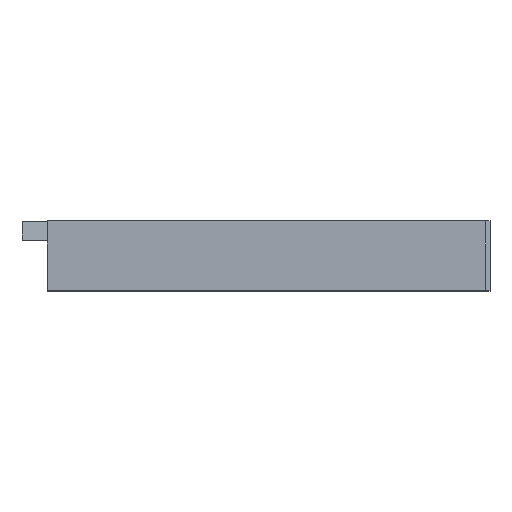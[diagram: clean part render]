
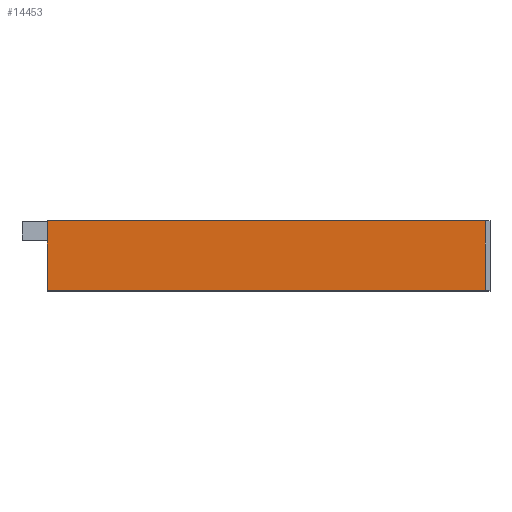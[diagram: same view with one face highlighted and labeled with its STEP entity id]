
A CAD part, top view. The second image highlights one B-rep face of the part: STEP entity #14453.
In plain terms, the highlighted planar face has unit normal (0, 0, 1).
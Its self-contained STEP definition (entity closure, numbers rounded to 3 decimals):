
#22 = VERTEX_POINT('',#23);
#23 = CARTESIAN_POINT('',(0.2,422.05,140.));
#32 = PLANE('',#33);
#33 = AXIS2_PLACEMENT_3D('',#34,#35,#36);
#34 = CARTESIAN_POINT('',(0.2,420.05,0.));
#35 = DIRECTION('',(1.,0.,0.));
#36 = DIRECTION('',(0.,0.,1.));
#44 = PLANE('',#45);
#45 = AXIS2_PLACEMENT_3D('',#46,#47,#48);
#46 = CARTESIAN_POINT('',(0.2,422.05,0.));
#47 = DIRECTION('',(0.,1.,0.));
#48 = DIRECTION('',(0.,0.,1.));
#56 = EDGE_CURVE('',#57,#22,#59,.T.);
#57 = VERTEX_POINT('',#58);
#58 = CARTESIAN_POINT('',(0.2,400.05,140.));
#59 = SURFACE_CURVE('',#60,(#64,#71),.PCURVE_S1.);
#60 = LINE('',#61,#62);
#61 = CARTESIAN_POINT('',(0.2,400.05,140.));
#62 = VECTOR('',#63,1.);
#63 = DIRECTION('',(0.,1.,0.));
#64 = PCURVE('',#32,#65);
#65 = DEFINITIONAL_REPRESENTATION('',(#66),#70);
#66 = LINE('',#67,#68);
#67 = CARTESIAN_POINT('',(140.,20.));
#68 = VECTOR('',#69,1.);
#69 = DIRECTION('',(0.,-1.));
#70 = ( GEOMETRIC_REPRESENTATION_CONTEXT(2) 
PARAMETRIC_REPRESENTATION_CONTEXT() REPRESENTATION_CONTEXT('2D SPACE',''
  ) );
#71 = PCURVE('',#72,#77);
#72 = PLANE('',#73);
#73 = AXIS2_PLACEMENT_3D('',#74,#75,#76);
#74 = CARTESIAN_POINT('',(0.2,420.05,140.));
#75 = DIRECTION('',(0.,0.,1.));
#76 = DIRECTION('',(1.,0.,0.));
#77 = DEFINITIONAL_REPRESENTATION('',(#78),#82);
#78 = LINE('',#79,#80);
#79 = CARTESIAN_POINT('',(0.,-20.));
#80 = VECTOR('',#81,1.);
#81 = DIRECTION('',(0.,1.));
#82 = ( GEOMETRIC_REPRESENTATION_CONTEXT(2) 
PARAMETRIC_REPRESENTATION_CONTEXT() REPRESENTATION_CONTEXT('2D SPACE',''
  ) );
#100 = PLANE('',#101);
#101 = AXIS2_PLACEMENT_3D('',#102,#103,#104);
#102 = CARTESIAN_POINT('',(0.2,400.05,137.5));
#103 = DIRECTION('',(0.,1.,0.));
#104 = DIRECTION('',(0.,0.,1.));
#196 = EDGE_CURVE('',#22,#197,#199,.T.);
#197 = VERTEX_POINT('',#198);
#198 = CARTESIAN_POINT('',(138.5,422.05,140.));
#199 = SURFACE_CURVE('',#200,(#204,#211),.PCURVE_S1.);
#200 = LINE('',#201,#202);
#201 = CARTESIAN_POINT('',(0.2,422.05,140.));
#202 = VECTOR('',#203,1.);
#203 = DIRECTION('',(1.,0.,0.));
#204 = PCURVE('',#44,#205);
#205 = DEFINITIONAL_REPRESENTATION('',(#206),#210);
#206 = LINE('',#207,#208);
#207 = CARTESIAN_POINT('',(140.,0.));
#208 = VECTOR('',#209,1.);
#209 = DIRECTION('',(0.,1.));
#210 = ( GEOMETRIC_REPRESENTATION_CONTEXT(2) 
PARAMETRIC_REPRESENTATION_CONTEXT() REPRESENTATION_CONTEXT('2D SPACE',''
  ) );
#211 = PCURVE('',#72,#212);
#212 = DEFINITIONAL_REPRESENTATION('',(#213),#217);
#213 = LINE('',#214,#215);
#214 = CARTESIAN_POINT('',(0.,2.));
#215 = VECTOR('',#216,1.);
#216 = DIRECTION('',(1.,0.));
#217 = ( GEOMETRIC_REPRESENTATION_CONTEXT(2) 
PARAMETRIC_REPRESENTATION_CONTEXT() REPRESENTATION_CONTEXT('2D SPACE',''
  ) );
#234 = PLANE('',#235);
#235 = AXIS2_PLACEMENT_3D('',#236,#237,#238);
#236 = CARTESIAN_POINT('',(137.5,399.05,141.));
#237 = DIRECTION('',(-0.707,-0.,-0.707));
#238 = DIRECTION('',(0.707,0.,-0.707));
#13952 = EDGE_CURVE('',#57,#13953,#13955,.T.);
#13953 = VERTEX_POINT('',#13954);
#13954 = CARTESIAN_POINT('',(138.5,400.05,140.));
#13955 = SURFACE_CURVE('',#13956,(#13960,#13967),.PCURVE_S1.);
#13956 = LINE('',#13957,#13958);
#13957 = CARTESIAN_POINT('',(0.2,400.05,140.));
#13958 = VECTOR('',#13959,1.);
#13959 = DIRECTION('',(1.,0.,0.));
#13960 = PCURVE('',#100,#13961);
#13961 = DEFINITIONAL_REPRESENTATION('',(#13962),#13966);
#13962 = LINE('',#13963,#13964);
#13963 = CARTESIAN_POINT('',(2.5,0.));
#13964 = VECTOR('',#13965,1.);
#13965 = DIRECTION('',(0.,1.));
#13966 = ( GEOMETRIC_REPRESENTATION_CONTEXT(2) 
PARAMETRIC_REPRESENTATION_CONTEXT() REPRESENTATION_CONTEXT('2D SPACE',''
  ) );
#13967 = PCURVE('',#72,#13968);
#13968 = DEFINITIONAL_REPRESENTATION('',(#13969),#13973);
#13969 = LINE('',#13970,#13971);
#13970 = CARTESIAN_POINT('',(0.,-20.));
#13971 = VECTOR('',#13972,1.);
#13972 = DIRECTION('',(1.,0.));
#13973 = ( GEOMETRIC_REPRESENTATION_CONTEXT(2) 
PARAMETRIC_REPRESENTATION_CONTEXT() REPRESENTATION_CONTEXT('2D SPACE',''
  ) );
#14453 = ADVANCED_FACE('',(#14454),#72,.T.);
#14454 = FACE_BOUND('',#14455,.T.);
#14455 = EDGE_LOOP('',(#14456,#14457,#14458,#14477));
#14456 = ORIENTED_EDGE('',*,*,#56,.F.);
#14457 = ORIENTED_EDGE('',*,*,#13952,.T.);
#14458 = ORIENTED_EDGE('',*,*,#14459,.F.);
#14459 = EDGE_CURVE('',#197,#13953,#14460,.T.);
#14460 = SURFACE_CURVE('',#14461,(#14465,#14471),.PCURVE_S1.);
#14461 = LINE('',#14462,#14463);
#14462 = CARTESIAN_POINT('',(138.5,409.55,140.));
#14463 = VECTOR('',#14464,1.);
#14464 = DIRECTION('',(0.,-1.,0.));
#14465 = PCURVE('',#72,#14466);
#14466 = DEFINITIONAL_REPRESENTATION('',(#14467),#14470);
#14467 = B_SPLINE_CURVE_WITH_KNOTS('',1,(#14468,#14469),.UNSPECIFIED.,
  .F.,.F.,(2,2),(-12.5,9.5),.PIECEWISE_BEZIER_KNOTS.);
#14468 = CARTESIAN_POINT('',(138.3,2.));
#14469 = CARTESIAN_POINT('',(138.3,-20.));
#14470 = ( GEOMETRIC_REPRESENTATION_CONTEXT(2) 
PARAMETRIC_REPRESENTATION_CONTEXT() REPRESENTATION_CONTEXT('2D SPACE',''
  ) );
#14471 = PCURVE('',#234,#14472);
#14472 = DEFINITIONAL_REPRESENTATION('',(#14473),#14476);
#14473 = B_SPLINE_CURVE_WITH_KNOTS('',1,(#14474,#14475),.UNSPECIFIED.,
  .F.,.F.,(2,2),(-12.5,9.5),.PIECEWISE_BEZIER_KNOTS.);
#14474 = CARTESIAN_POINT('',(1.414,-23.));
#14475 = CARTESIAN_POINT('',(1.414,-1.));
#14476 = ( GEOMETRIC_REPRESENTATION_CONTEXT(2) 
PARAMETRIC_REPRESENTATION_CONTEXT() REPRESENTATION_CONTEXT('2D SPACE',''
  ) );
#14477 = ORIENTED_EDGE('',*,*,#196,.F.);
